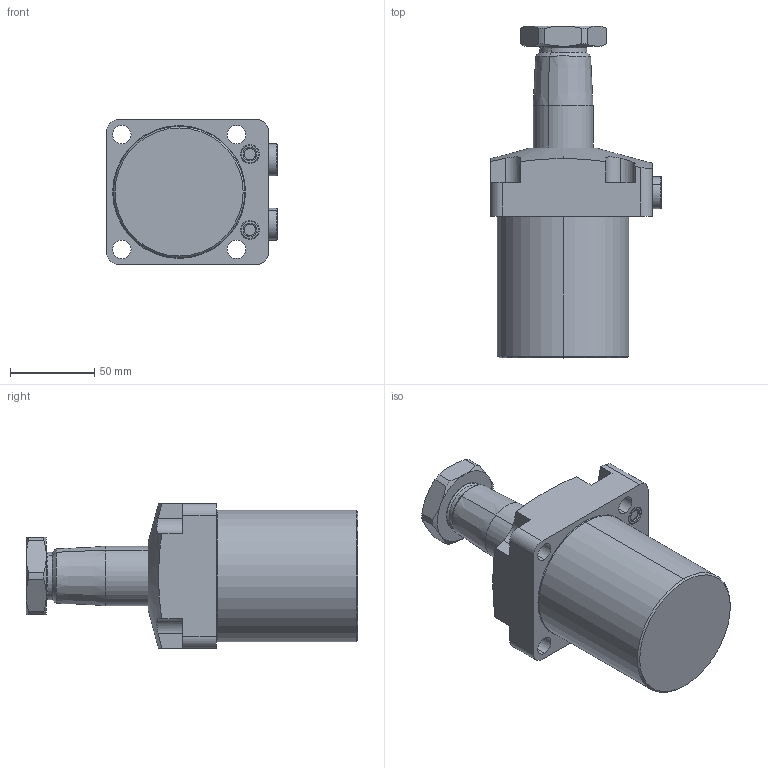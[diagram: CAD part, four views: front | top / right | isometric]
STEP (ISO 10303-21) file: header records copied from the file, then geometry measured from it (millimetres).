
FILE_DESCRIPTION(/* description */ (''),/* implementation_level */ '2;1');
FILE_NAME(/* name */ 'TRC16-RN60.stp',/* time_stamp */ '2025-01-04T08:26:07+08:00',/* author */ (''),/* organization */ (''),/* preprocessor_version */ 'ST-DEVELOPER v16.7',/* originating_system */ 'SIEMENS PLM Software NX 12.0',/* authorisation */ '');
FILE_SCHEMA (('AUTOMOTIVE_DESIGN { 1 0 10303 214 3 1 1 1 }'));
Length unit declared in the file: millimetre
Products named in the file (5): TRC16-RN60-04; TRC16-RN60-03; TRC16-RN60-02; TRC16-RN60-01; CTU16-RN60_step
Assembly tree (5 placements, depth 2):
  CTU16-RN60_step
    TRC16-RN60-01  x2
    TRC16-RN60-02
    TRC16-RN60-03
    TRC16-RN60-04
Bounding box: 101.3 x 196.9 x 86 mm (x, y, z)
Volume: 729489.2 mm3; surface area: 73612.8 mm2
Topology: 5 solids, 7 shells, 203 faces, 465 edges, 288 vertices
Faces by surface type: cylinder 73, plane 67, cone 40, torus 22, sphere 1
Entity records: 5416 total; most frequent: CARTESIAN_POINT 1092, DIRECTION 938, ORIENTED_EDGE 836, EDGE_CURVE 418, AXIS2_PLACEMENT_3D 386, VERTEX_POINT 260, EDGE_LOOP 206, CIRCLE 199
